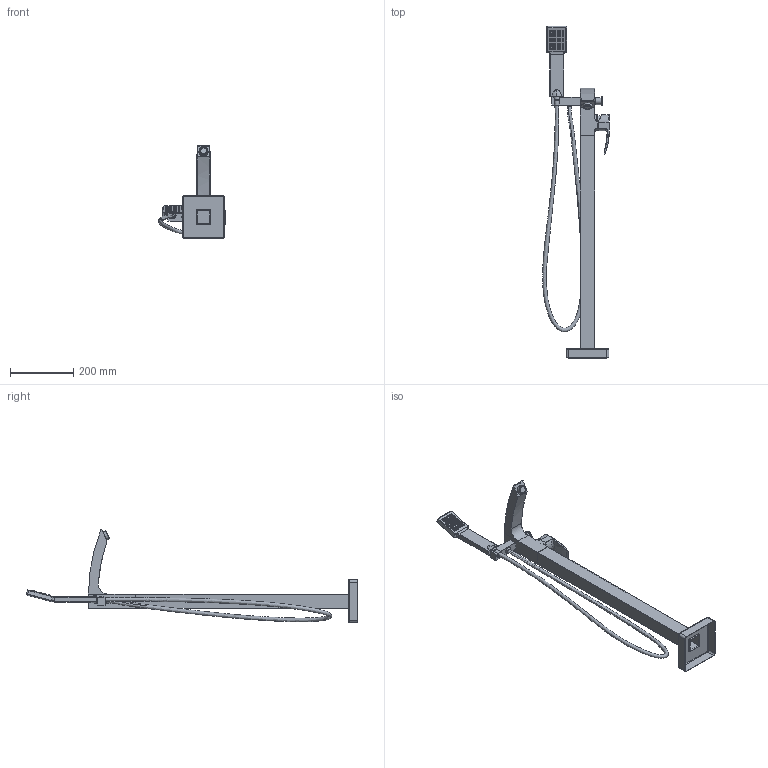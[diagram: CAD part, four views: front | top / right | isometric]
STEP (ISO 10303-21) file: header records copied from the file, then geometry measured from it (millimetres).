
FILE_DESCRIPTION(/* description */ (''),/* implementation_level */ '2;1');
FILE_NAME(/* name */ 'c:\worker\convert-fusion-r09\tmp\job-1\36\output\files\b9898535-6522-4107-b899-4c3f7f9585b7\d1121809-3715-443b-933a-9cc86237e4c3.stp',/* time_stamp */ '2019-12-10T08:47:50+00:00',/* author */ (''),/* organization */ (''),/* preprocessor_version */ 'ST-DEVELOPER v18',/* originating_system */ 'Autodesk Translation Framework v8.12.0.6',/* authorisation */ '');
FILE_SCHEMA (('AUTOMOTIVE_DESIGN { 1 0 10303 214 3 1 1 }'));
Length unit declared in the file: millimetre
Products named in the file (1): !MU6133
Bounding box: 211.88 x 1050.92 x 294.42 mm (x, y, z)
Volume: 788363.7 mm3; surface area: 551114.3 mm2
Topology: 12 solids, 14 shells, 1343 faces, 3056 edges, 1824 vertices
Faces by surface type: cylinder 617, plane 414, sphere 204, bspline 68, torus 29, cone 11
Full cylindrical faces by diameter (mm): 4.2 x1, 5.2 x2, 8 x2, 14 x1, 14.2 x1, 17.5 x1, 18 x1, 19 x4, 20 x3, 20.5 x1, 21.4 x1, 21.5 x2, 22 x2, 23.4 x1, 24 x2, 24.5 x1, 25 x1, 26 x1, 26.5 x1, 27 x1, 28 x3, 29 x1, 30 x1, 33.5 x1, 35.5 x1, 36 x1
Entity records: 44608 total; most frequent: CARTESIAN_POINT 14057, DIRECTION 6874, ORIENTED_EDGE 6052, EDGE_CURVE 3026, AXIS2_PLACEMENT_3D 2740, VERTEX_POINT 1824, EDGE_LOOP 1483, CIRCLE 1441
